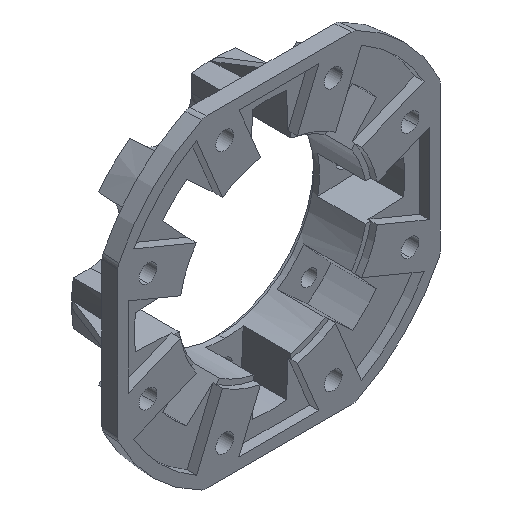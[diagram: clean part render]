
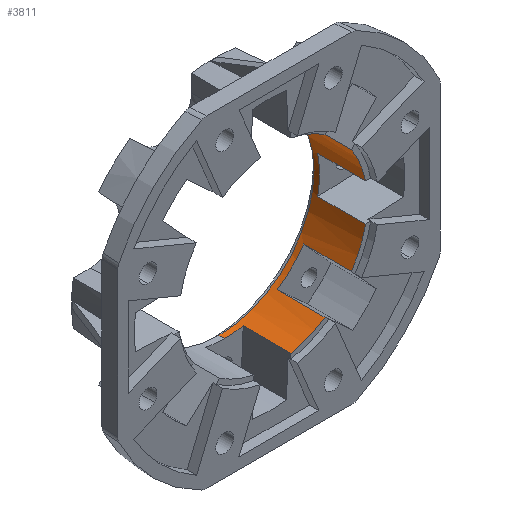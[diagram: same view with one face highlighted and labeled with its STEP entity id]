
A CAD part, isometric view. The second image highlights one B-rep face of the part: STEP entity #3811.
In plain terms, the highlighted cylindrical face has radius 85.5 mm (diameter 171 mm), a partial arc.
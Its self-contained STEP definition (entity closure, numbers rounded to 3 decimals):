
#1126=CARTESIAN_POINT('',(0.,49.,0.));
#1127=DIRECTION('',(0.,1.,0.));
#1128=DIRECTION('',(0.832,0.,-0.554));
#1129=AXIS2_PLACEMENT_3D('',#1126,#1127,#1128);
#1131=DIRECTION('',(0.,1.,0.));
#1132=VECTOR('',#1131,43.);
#1133=CARTESIAN_POINT('',(47.386,6.,-71.168));
#1134=LINE('',#1133,#1132);
#1135=CARTESIAN_POINT('',(0.,6.,0.));
#1136=DIRECTION('',(0.,1.,0.));
#1137=DIRECTION('',(0.554,0.,-0.832));
#1138=AXIS2_PLACEMENT_3D('',#1135,#1136,#1137);
#1140=DIRECTION('',(0.,1.,0.));
#1141=VECTOR('',#1140,43.);
#1142=CARTESIAN_POINT('',(16.816,6.,-83.83));
#1143=LINE('',#1142,#1141);
#1144=CARTESIAN_POINT('',(0.,49.,0.));
#1145=DIRECTION('',(0.,1.,0.));
#1146=DIRECTION('',(0.197,0.,-0.98));
#1147=AXIS2_PLACEMENT_3D('',#1144,#1145,#1146);
#1149=CARTESIAN_POINT('',(0.,54.,0.));
#1150=DIRECTION('',(0.,1.,0.));
#1151=DIRECTION('',(0.,0.,1.));
#1152=AXIS2_PLACEMENT_3D('',#1149,#1150,#1151);
#1154=DIRECTION('',(0.,-1.,0.));
#1155=VECTOR('',#1154,5.);
#1156=CARTESIAN_POINT('',(0.,54.,85.5));
#1157=LINE('',#1156,#1155);
#1158=CARTESIAN_POINT('',(0.,49.,0.));
#1159=DIRECTION('',(0.,1.,0.));
#1160=DIRECTION('',(0.,0.,1.));
#1161=AXIS2_PLACEMENT_3D('',#1158,#1159,#1160);
#1163=DIRECTION('',(0.,1.,0.));
#1164=VECTOR('',#1163,43.);
#1165=CARTESIAN_POINT('',(16.816,6.,83.83));
#1166=LINE('',#1165,#1164);
#1167=CARTESIAN_POINT('',(0.,6.,0.));
#1168=DIRECTION('',(0.,1.,0.));
#1169=DIRECTION('',(0.197,0.,0.98));
#1170=AXIS2_PLACEMENT_3D('',#1167,#1168,#1169);
#1172=DIRECTION('',(0.,1.,0.));
#1173=VECTOR('',#1172,43.);
#1174=CARTESIAN_POINT('',(47.386,6.,71.168));
#1175=LINE('',#1174,#1173);
#1176=CARTESIAN_POINT('',(0.,49.,0.));
#1177=DIRECTION('',(0.,1.,0.));
#1178=DIRECTION('',(0.554,0.,0.832));
#1179=AXIS2_PLACEMENT_3D('',#1176,#1177,#1178);
#1181=DIRECTION('',(0.,1.,0.));
#1182=VECTOR('',#1181,43.);
#1183=CARTESIAN_POINT('',(71.168,6.,47.386));
#1184=LINE('',#1183,#1182);
#1185=CARTESIAN_POINT('',(0.,6.,0.));
#1186=DIRECTION('',(0.,1.,0.));
#1187=DIRECTION('',(0.832,0.,0.554));
#1188=AXIS2_PLACEMENT_3D('',#1185,#1186,#1187);
#1190=DIRECTION('',(0.,1.,0.));
#1191=VECTOR('',#1190,43.);
#1192=CARTESIAN_POINT('',(83.83,6.,16.816));
#1193=LINE('',#1192,#1191);
#1194=CARTESIAN_POINT('',(0.,49.,0.));
#1195=DIRECTION('',(0.,1.,0.));
#1196=DIRECTION('',(0.98,0.,0.197));
#1197=AXIS2_PLACEMENT_3D('',#1194,#1195,#1196);
#1199=DIRECTION('',(0.,1.,0.));
#1200=VECTOR('',#1199,43.);
#1201=CARTESIAN_POINT('',(83.83,6.,-16.816));
#1202=LINE('',#1201,#1200);
#1203=CARTESIAN_POINT('',(0.,6.,0.));
#1204=DIRECTION('',(0.,1.,0.));
#1205=DIRECTION('',(0.98,0.,-0.197));
#1206=AXIS2_PLACEMENT_3D('',#1203,#1204,#1205);
#1208=DIRECTION('',(0.,1.,0.));
#1209=VECTOR('',#1208,43.);
#1210=CARTESIAN_POINT('',(71.168,6.,-47.386));
#1211=LINE('',#1210,#1209);
#1347=DIRECTION('',(0.,-1.,0.));
#1348=VECTOR('',#1347,5.);
#1349=CARTESIAN_POINT('',(0.,54.,-85.5));
#1350=LINE('',#1349,#1348);
#2398=CARTESIAN_POINT('',(0.,54.,85.5));
#2399=CARTESIAN_POINT('',(0.,54.,-85.5));
#2400=VERTEX_POINT('',#2398);
#2401=VERTEX_POINT('',#2399);
#2482=CARTESIAN_POINT('',(16.816,49.,-83.83));
#2483=CARTESIAN_POINT('',(0.,49.,-85.5));
#2484=VERTEX_POINT('',#2482);
#2485=VERTEX_POINT('',#2483);
#2660=CARTESIAN_POINT('',(16.816,6.,-83.83));
#2661=VERTEX_POINT('',#2660);
#2760=CARTESIAN_POINT('',(0.,49.,85.5));
#2761=CARTESIAN_POINT('',(16.816,49.,83.83));
#2762=VERTEX_POINT('',#2760);
#2763=VERTEX_POINT('',#2761);
#2764=CARTESIAN_POINT('',(16.816,6.,83.83));
#2765=VERTEX_POINT('',#2764);
#2790=CARTESIAN_POINT('',(47.386,49.,71.168));
#2791=CARTESIAN_POINT('',(71.168,49.,47.386));
#2792=VERTEX_POINT('',#2790);
#2793=VERTEX_POINT('',#2791);
#2794=CARTESIAN_POINT('',(71.168,6.,47.386));
#2795=VERTEX_POINT('',#2794);
#2796=CARTESIAN_POINT('',(47.386,6.,71.168));
#2797=VERTEX_POINT('',#2796);
#2818=CARTESIAN_POINT('',(83.83,49.,16.816));
#2819=CARTESIAN_POINT('',(83.83,49.,-16.816));
#2820=VERTEX_POINT('',#2818);
#2821=VERTEX_POINT('',#2819);
#2822=CARTESIAN_POINT('',(83.83,6.,-16.816));
#2823=VERTEX_POINT('',#2822);
#2824=CARTESIAN_POINT('',(83.83,6.,16.816));
#2825=VERTEX_POINT('',#2824);
#2846=CARTESIAN_POINT('',(71.168,49.,-47.386));
#2847=CARTESIAN_POINT('',(47.386,49.,-71.168));
#2848=VERTEX_POINT('',#2846);
#2849=VERTEX_POINT('',#2847);
#2850=CARTESIAN_POINT('',(47.386,6.,-71.168));
#2851=VERTEX_POINT('',#2850);
#2852=CARTESIAN_POINT('',(71.168,6.,-47.386));
#2853=VERTEX_POINT('',#2852);
#3765=CARTESIAN_POINT('',(0.,59.,0.));
#3766=DIRECTION('',(0.,1.,0.));
#3767=DIRECTION('',(0.,0.,1.));
#3768=AXIS2_PLACEMENT_3D('',#3765,#3766,#3767);
#3769=CYLINDRICAL_SURFACE('',#3768,85.5);
#3771=ORIENTED_EDGE('',*,*,#3770,.T.);
#3773=ORIENTED_EDGE('',*,*,#3772,.F.);
#3775=ORIENTED_EDGE('',*,*,#3774,.T.);
#3777=ORIENTED_EDGE('',*,*,#3776,.T.);
#3779=ORIENTED_EDGE('',*,*,#3778,.T.);
#3781=ORIENTED_EDGE('',*,*,#3780,.F.);
#3782=ORIENTED_EDGE('',*,*,#3758,.F.);
#3784=ORIENTED_EDGE('',*,*,#3783,.T.);
#3786=ORIENTED_EDGE('',*,*,#3785,.T.);
#3788=ORIENTED_EDGE('',*,*,#3787,.F.);
#3790=ORIENTED_EDGE('',*,*,#3789,.T.);
#3792=ORIENTED_EDGE('',*,*,#3791,.T.);
#3794=ORIENTED_EDGE('',*,*,#3793,.T.);
#3796=ORIENTED_EDGE('',*,*,#3795,.F.);
#3798=ORIENTED_EDGE('',*,*,#3797,.T.);
#3800=ORIENTED_EDGE('',*,*,#3799,.T.);
#3802=ORIENTED_EDGE('',*,*,#3801,.T.);
#3804=ORIENTED_EDGE('',*,*,#3803,.F.);
#3806=ORIENTED_EDGE('',*,*,#3805,.T.);
#3808=ORIENTED_EDGE('',*,*,#3807,.T.);
#3809=EDGE_LOOP('',(#3771,#3773,#3775,#3777,#3779,#3781,#3782,#3784,#3786,#3788,
#3790,#3792,#3794,#3796,#3798,#3800,#3802,#3804,#3806,#3808));
#3810=FACE_OUTER_BOUND('',#3809,.F.);
#3811=ADVANCED_FACE('',(#3810),#3769,.F.);
#1130=CIRCLE('',#1129,85.5);
#1139=CIRCLE('',#1138,85.5);
#1148=CIRCLE('',#1147,85.5);
#1153=CIRCLE('',#1152,85.5);
#1162=CIRCLE('',#1161,85.5);
#1171=CIRCLE('',#1170,85.5);
#1180=CIRCLE('',#1179,85.5);
#1189=CIRCLE('',#1188,85.5);
#1198=CIRCLE('',#1197,85.5);
#1207=CIRCLE('',#1206,85.5);
#3758=EDGE_CURVE('',#2400,#2401,#1153,.T.);
#3770=EDGE_CURVE('',#2848,#2849,#1130,.T.);
#3772=EDGE_CURVE('',#2851,#2849,#1134,.T.);
#3774=EDGE_CURVE('',#2851,#2661,#1139,.T.);
#3776=EDGE_CURVE('',#2661,#2484,#1143,.T.);
#3778=EDGE_CURVE('',#2484,#2485,#1148,.T.);
#3780=EDGE_CURVE('',#2401,#2485,#1350,.T.);
#3783=EDGE_CURVE('',#2400,#2762,#1157,.T.);
#3785=EDGE_CURVE('',#2762,#2763,#1162,.T.);
#3787=EDGE_CURVE('',#2765,#2763,#1166,.T.);
#3789=EDGE_CURVE('',#2765,#2797,#1171,.T.);
#3791=EDGE_CURVE('',#2797,#2792,#1175,.T.);
#3793=EDGE_CURVE('',#2792,#2793,#1180,.T.);
#3795=EDGE_CURVE('',#2795,#2793,#1184,.T.);
#3797=EDGE_CURVE('',#2795,#2825,#1189,.T.);
#3799=EDGE_CURVE('',#2825,#2820,#1193,.T.);
#3801=EDGE_CURVE('',#2820,#2821,#1198,.T.);
#3803=EDGE_CURVE('',#2823,#2821,#1202,.T.);
#3805=EDGE_CURVE('',#2823,#2853,#1207,.T.);
#3807=EDGE_CURVE('',#2853,#2848,#1211,.T.);
